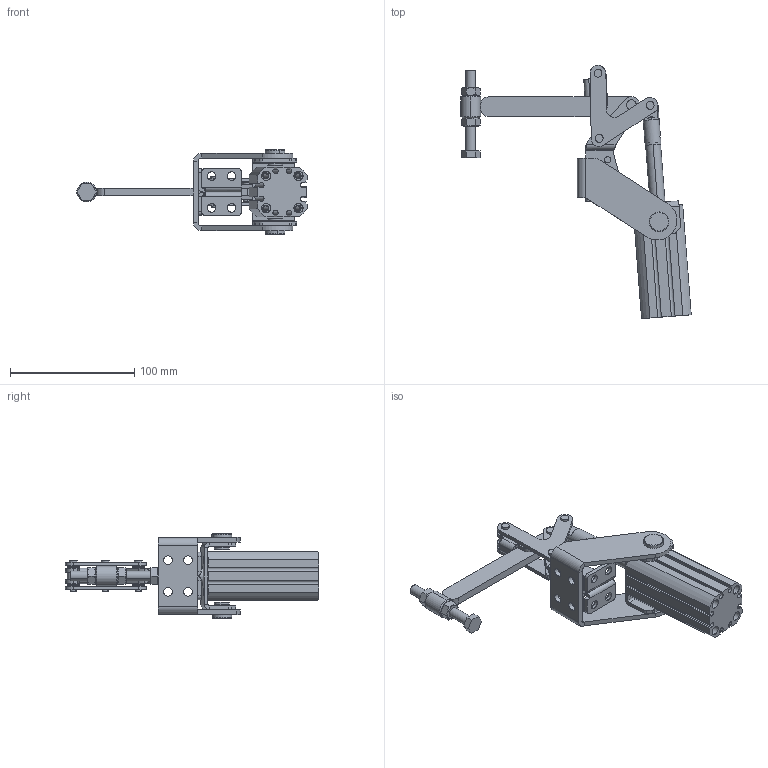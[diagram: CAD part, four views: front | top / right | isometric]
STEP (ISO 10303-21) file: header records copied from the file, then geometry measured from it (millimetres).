
FILE_DESCRIPTION (( 'STEP AP203' ), '1' );
FILE_NAME ('KF-718 S P.STEP', '2014-08-28T19:48:52', ( 'Ricardo' ), ( '' ), 'SwSTEP 2.0', 'SolidWorks 2013', '' );
FILE_SCHEMA (( 'CONFIG_CONTROL_DESIGN' ));
Length unit declared in the file: millimetre
Products named in the file (24): 06.50048; 02.12080_Esquerda; 11.50002; 15.10070; 03.15020; PSB-M8; 16.20068; 04.10016; HI_CD55B25-50(0)_BODY; 15.20007; 15.10069; HI_C55B25-50M(0)_ROD; 05.20041; 17.50011; CD55B25-50M_avan㌢do; 20.20004; 05.20001; KF-718 S P; 01.10122_Direita; 06.50023; 01.10122_Esquerda; 06.50028; 02.12080_Direita; 12.50020
Assembly tree (38 placements, depth 3):
  KF-718 S P
    01.10122_Direita
    01.10122_Esquerda
    02.12080_Direita
    02.12080_Esquerda
    03.15020
    04.10016
    15.10069
    17.50011  x8
    05.20001  x2
    06.50023  x2
    06.50028  x3
    06.50048  x2
    15.10070
    16.20068  x2
    15.20007
    05.20041  x2
    PSB-M8
      20.20004
      12.50020
      11.50002  x2
    CD55B25-50M_avan㌢do
      HI_CD55B25-50(0)_BODY
      HI_C55B25-50M(0)_ROD
Bounding box: 185.1 x 203.47 x 68 mm (x, y, z)
Volume: 189279.6 mm3; surface area: 104571.6 mm2
Topology: 36 solids, 36 shells, 800 faces, 1863 edges, 1160 vertices
Faces by surface type: cylinder 363, plane 274, cone 152, bspline 10, sphere 1
Entity records: 21311 total; most frequent: CARTESIAN_POINT 3472, DIRECTION 3335, ORIENTED_EDGE 2920, EDGE_CURVE 1460, AXIS2_PLACEMENT_3D 1292, VERTEX_POINT 927, LINE 751, VECTOR 751
